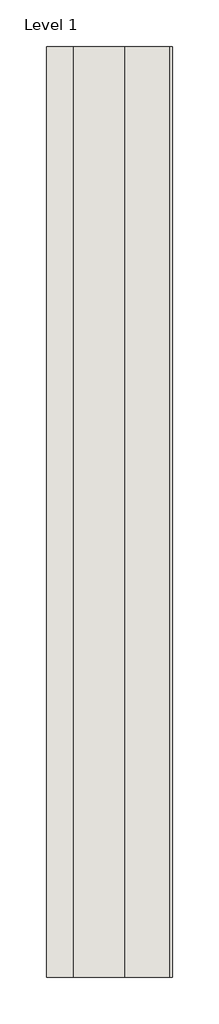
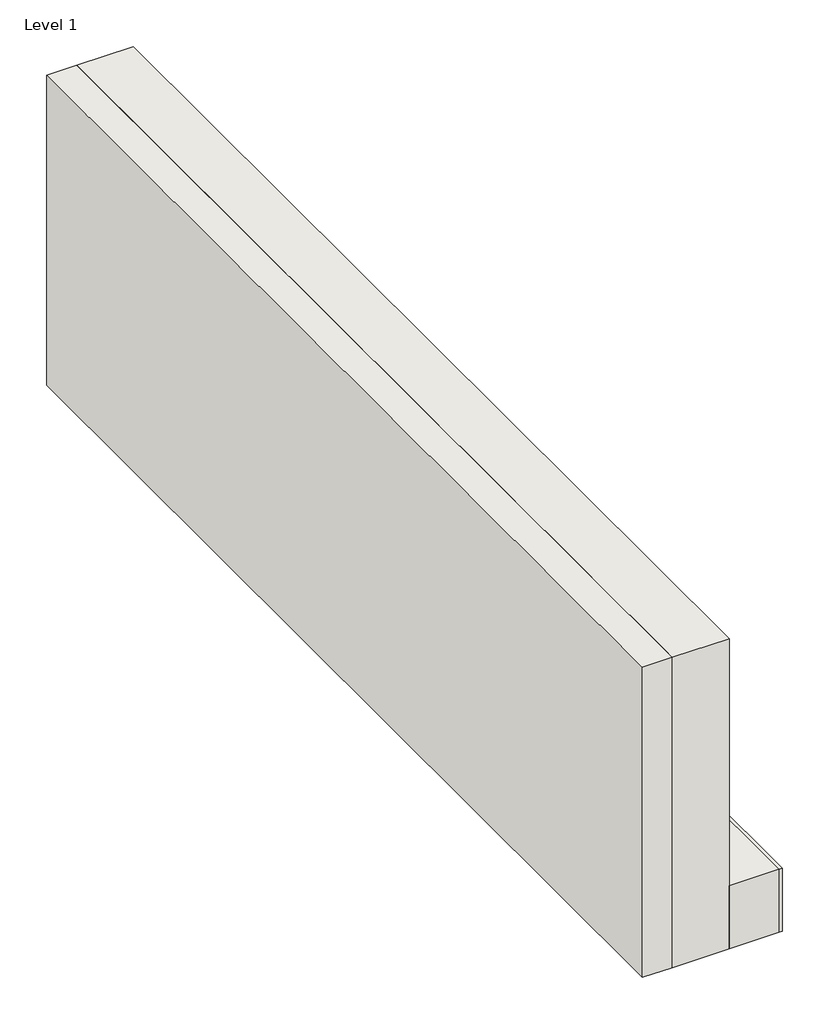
# One storey: 4 walls.
"""IFC4 building model written with IfcOpenShell, lengths in millimetres."""

import ifcopenshell
import ifcopenshell.guid

model = None  # the IFC model being written
_history = None  # IfcOwnerHistory: only IFC2X3 demands one
_inside = {}  # id of a spatial element -> (the spatial element, [elements in it])
_under = {}  # id of a project, library or spatial element -> (it, [spatial elements below it])
_declared = {}  # id of a project -> (the project, [libraries it declares])
_typed = {}  # id of a type object -> (the type object, [elements of that type])
_made_of = {}  # id of a material, layer set ... -> (it, [elements and type objects made of it])


def new_model(schema):
    """Start an empty IFC model of exactly this schema.

    Asked for "IFC4X3", IfcOpenShell would pick the latest addendum, in which some entities
    have other attributes; the version numbers below select the first issue.
    IFC2X3 requires an IfcOwnerHistory on every rooted entity: one is made here for all.
    """
    global model, _history
    if schema == "IFC4X3":
        model = ifcopenshell.file(schema_version=(4, 3, 0, 0))
    else:
        model = ifcopenshell.file(schema=schema)
    _inside.clear()
    _under.clear()
    _declared.clear()
    _typed.clear()
    _made_of.clear()
    _history = None
    if model.schema == "IFC2X3":
        org = make("IfcOrganization", Name="unknown")
        user = make(
            "IfcPersonAndOrganization",
            ThePerson=make("IfcPerson", FamilyName="unknown"),
            TheOrganization=org,
        )
        app = make(
            "IfcApplication",
            ApplicationDeveloper=org,
            Version="unknown",
            ApplicationFullName="unknown",
            ApplicationIdentifier="unknown",
        )
        _history = make(
            "IfcOwnerHistory",
            OwningUser=user,
            OwningApplication=app,
            ChangeAction="ADDED",
            CreationDate=0,
        )
    return model


def make(cls, **values):
    """One entity of the class cls with the attributes given. An attribute that is None is left unset."""
    return model.create_entity(
        cls, **{name: value for name, value in values.items() if value is not None}
    )


def rooted(cls, **values):
    """An entity with a GlobalId (a new one), such as an element, a storey or a relation."""
    return make(cls, GlobalId=ifcopenshell.guid.new(), OwnerHistory=_history, **values)


def si_unit(unit_type, name, prefix=None):
    """IfcSIUnit, for example si_unit("LENGTHUNIT", "METRE", prefix="MILLI")."""
    return make("IfcSIUnit", UnitType=unit_type, Prefix=prefix, Name=name)


def assignment(units):
    """IfcUnitAssignment: the units of a project."""
    return None if units is None else make("IfcUnitAssignment", Units=units)


def point(xyz):
    """IfcCartesianPoint."""
    return None if xyz is None else make("IfcCartesianPoint", Coordinates=xyz)


def direction(xyz):
    """IfcDirection."""
    return None if xyz is None else make("IfcDirection", DirectionRatios=xyz)


def frame(location, z_axis=None, x_axis=None):
    """IfcAxis2Placement3D, a coordinate frame: its origin and axes. An axis left out is left unset."""
    return make(
        "IfcAxis2Placement3D",
        Location=point(location),
        Axis=direction(z_axis),
        RefDirection=direction(x_axis),
    )


def origin():
    """The frame at (0, 0, 0) with its axes left unset."""
    return frame((0.0, 0.0, 0.0))


def origin_with_axes():
    """The frame at (0, 0, 0) with the z axis (0, 0, 1) and the x axis (1, 0, 0) written out."""
    return frame((0.0, 0.0, 0.0), z_axis=(0.0, 0.0, 1.0), x_axis=(1.0, 0.0, 0.0))


def place(relative_to, where):
    """IfcLocalPlacement: puts the frame where relative to a parent placement (None: the world)."""
    return make(
        "IfcLocalPlacement", PlacementRelTo=relative_to, RelativePlacement=where
    )


def context(
    kind, dimensions, precision=None, world=None, true_north=None, identifier=None
):
    """IfcGeometricRepresentationContext, for example the 3D "Model" context."""
    return make(
        "IfcGeometricRepresentationContext",
        ContextIdentifier=identifier,
        ContextType=kind,
        CoordinateSpaceDimension=dimensions,
        Precision=precision,
        WorldCoordinateSystem=world,
        TrueNorth=true_north,
    )


def project(units=None, contexts=None):
    """IfcProject with its units and contexts."""
    return rooted(
        "IfcProject",
        Name="project",
        RepresentationContexts=contexts,
        UnitsInContext=assignment(units),
    )


def spatial(cls, under=None, at=None, **own):
    """A site, building, storey or space (cls), placed at a placement, below another one or the project."""
    s = rooted(cls, ObjectPlacement=at, **own)
    if under is not None:
        _under.setdefault(under.id(), (under, []))[1].append(s)
    return s


def polyline(points):
    """IfcPolyline through the points."""
    return make("IfcPolyline", Points=[point(p) for p in points])


def outline(outer, holes=None, kind="AREA"):
    """IfcArbitraryClosedProfileDef: a profile drawn as a closed curve; with holes, ...WithVoids."""
    if holes is None:
        return make("IfcArbitraryClosedProfileDef", ProfileType=kind, OuterCurve=outer)
    return make(
        "IfcArbitraryProfileDefWithVoids",
        ProfileType=kind,
        OuterCurve=outer,
        InnerCurves=holes,
    )


def extrude(swept, where, along, depth):
    """IfcExtrudedAreaSolid: the profile swept, set in the frame where, extruded along a direction by depth."""
    return make(
        "IfcExtrudedAreaSolid",
        SweptArea=swept,
        Position=where,
        ExtrudedDirection=direction(along),
        Depth=depth,
    )


def faces_of(points, faces, orient=None, outer=None):
    """IfcFace entities. A face is a list of loops; a loop is a list of indices into points, from 0.

    orient and outer hold one flag for each loop. By default every Orientation is true, the
    first loop of a face is its IfcFaceOuterBound and the others are IfcFaceBound.
    """
    made = []
    for i, loops in enumerate(faces):
        bounds = []
        for j, loop in enumerate(loops):
            is_outer = j == 0 if outer is None else outer[i][j]
            bounds.append(
                make(
                    "IfcFaceOuterBound" if is_outer else "IfcFaceBound",
                    Bound=make("IfcPolyLoop", Polygon=[points[k] for k in loop]),
                    Orientation=True if orient is None else orient[i][j],
                )
            )
        made.append(make("IfcFace", Bounds=bounds))
    return made


def faceted_brep(points, faces, orient=None, outer=None, voids=None):
    """IfcFacetedBrep: a solid bounded by flat faces; with voids (closed shells), ...WithVoids."""
    shared = [point(p) for p in points]
    hull = make("IfcClosedShell", CfsFaces=faces_of(shared, faces, orient, outer))
    if voids is None:
        return make("IfcFacetedBrep", Outer=hull)
    return make(
        "IfcFacetedBrepWithVoids",
        Outer=hull,
        Voids=[
            make(cls, CfsFaces=faces_of(shared, fs, o, b)) for cls, fs, o, b in voids
        ],
    )


def shape(context_of_items, identifier, shape_type, items):
    """IfcShapeRepresentation: the items that make up one representation, for example the "Body"."""
    return make(
        "IfcShapeRepresentation",
        ContextOfItems=context_of_items,
        RepresentationIdentifier=identifier,
        RepresentationType=shape_type,
        Items=items,
    )


def made_of(thing, what):
    """Note that an element or type object is made of a material, layer set ...; save() writes the relation."""
    if what is not None:
        _made_of.setdefault(what.id(), (what, []))[1].append(thing)
    return thing


def element(
    cls,
    number,
    at=None,
    inside=None,
    cuts=None,
    type_object=None,
    material=None,
    context=None,
    identifier="Body",
    shape_type=None,
    held_by="IfcProductDefinitionShape",
    body=None,
    shapes=None,
    **own,
):
    """One element of the class cls, such as IfcWall. Its Tag is "e" and its number.

    at: its placement. inside: the storey or other place that contains it. cuts: it is an
    opening in that element (IfcRelVoidsElement). A single representation is given by context,
    identifier, shape_type and body (its items); several are given by shapes. held_by: the class
    of the entity that holds the representations. save() writes the other relations.
    """
    e = rooted(cls, Tag="e%d" % number, ObjectPlacement=at, **own)
    if body is not None:
        shapes = [shape(context, identifier, shape_type, body)]
    if shapes is not None:
        e.Representation = make(held_by, Representations=shapes)
    if inside is not None:
        _inside.setdefault(inside.id(), (inside, []))[1].append(e)
    if cuts is not None:
        rooted(
            "IfcRelVoidsElement", RelatingBuildingElement=cuts, RelatedOpeningElement=e
        )
    if type_object is not None:
        _typed.setdefault(type_object.id(), (type_object, []))[1].append(e)
    return made_of(e, material)


def aggregate(whole, parts):
    """IfcRelAggregates: a whole, such as a stair, and the parts it consists of."""
    return rooted("IfcRelAggregates", RelatingObject=whole, RelatedObjects=parts)


def save(model, path):
    """Write the relations noted so far, then the file.

    IfcRelAggregates (storeys below a building ...), IfcRelContainedInSpatialStructure (elements
    in a storey), IfcRelDefinesByType, IfcRelAssociatesMaterial and IfcRelDeclares: one each for
    every whole, place, type object, material and project.
    """
    for whole, parts in _under.values():
        aggregate(whole, parts)
    for where, things in _inside.values():
        rooted(
            "IfcRelContainedInSpatialStructure",
            RelatedElements=things,
            RelatingStructure=where,
        )
    for kind, things in _typed.values():
        rooted("IfcRelDefinesByType", RelatedObjects=things, RelatingType=kind)
    for what, things in _made_of.values():
        rooted("IfcRelAssociatesMaterial", RelatedObjects=things, RelatingMaterial=what)
    for by, libraries in _declared.values():
        rooted("IfcRelDeclares", RelatingContext=by, RelatedDefinitions=libraries)
    model.write(path)


model = new_model("IFC4")

# Units and contexts
model_context = context("Model", 3, world=origin())
ifc_project = project(units=[si_unit("LENGTHUNIT", "METRE", prefix="MILLI")], contexts=[model_context])

# Site, building, storey
site = spatial("IfcSite", under=ifc_project)
building = spatial("IfcBuilding", under=site)
storey = spatial("IfcBuildingStorey", under=building, Name="Level 1", Elevation=0.0)

# Walls
placement = place(None, origin())
element("IfcWall", 1, ObjectType="SolidJohn_23-13 21 13_150_Calcium Silicate Masonry Units", at=placement, inside=storey, context=model_context, shape_type="SweptSolid", body=[
    extrude(outline(polyline([(-3514.0889074, -8489.9909639), (-3514.0889074, -5389.9909639), (-3364.0889074, -5389.9909639), (-3364.0889074, -8489.9909639), (-3514.0889074, -8489.9909639)])), origin_with_axes(), (0.0, 0.0, 1.0), 200.0),
])
element("IfcWall", 2, ObjectType="SolidJohn_23-13 25 19 11 13_120_Urethane Slab and Board Thermal Insulation_Wall", at=placement, inside=storey, context=model_context, shape_type="Brep", body=[
    faceted_brep([(-3684.0889074, -5389.9909639, 0.0), (-3684.0889074, -8489.9909639, 0.0), (-3684.0889074, -8489.9909639, 985.0), (-3684.0889074, -5389.9909639, 985.0), (-3514.0889074, -5389.9909639, 0.0), (-3514.0889074, -5389.9909639, 200.0), (-3514.0889074, -5389.9909639, 500.0), (-3514.0889074, -5389.9909639, 985.0), (-3514.0889074, -8489.9909639, 985.0), (-3514.0889074, -8489.9909639, 500.0), (-3514.0889074, -8489.9909639, 200.0), (-3514.0889074, -8489.9909639, 0.0)], [[[0, 1, 2, 3]], [[4, 5, 6, 7, 8, 9, 10, 11]], [[1, 0, 4, 11]], [[2, 1, 11, 10, 9, 8]], [[0, 3, 7, 6, 5, 4]], [[3, 2, 8, 7]]]),
])
element("IfcWall", 3, ObjectType="SolidJohn_23-13 21 19 11_90_Common Bricks", at=placement, inside=storey, context=model_context, shape_type="SweptSolid", body=[
    extrude(outline(polyline([(-3684.0889074, -5389.9909639), (-3684.0889074, -8489.9909639), (-3774.0889074, -8489.9909639), (-3774.0889074, -5389.9909639), (-3684.0889074, -5389.9909639)])), origin_with_axes(), (0.0, 0.0, 1.0), 985.0),
])
element("IfcWall", 4, ObjectType="SolidJohn_23-15 13 23_10_Interior Plasters_wall", at=placement, inside=storey, context=model_context, shape_type="SweptSolid", body=[
    extrude(outline(polyline([(-3364.0889074, -8489.9909639), (-3364.0889074, -5389.9909639), (-3354.0889074, -5389.9909639), (-3354.0889074, -8489.9909639), (-3364.0889074, -8489.9909639)])), origin_with_axes(), (0.0, 0.0, 1.0), 200.0),
])

save(model, "model.ifc")
